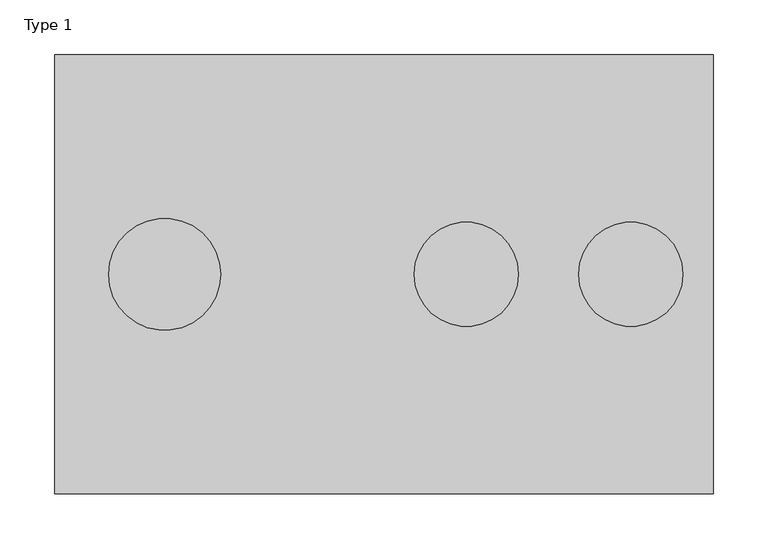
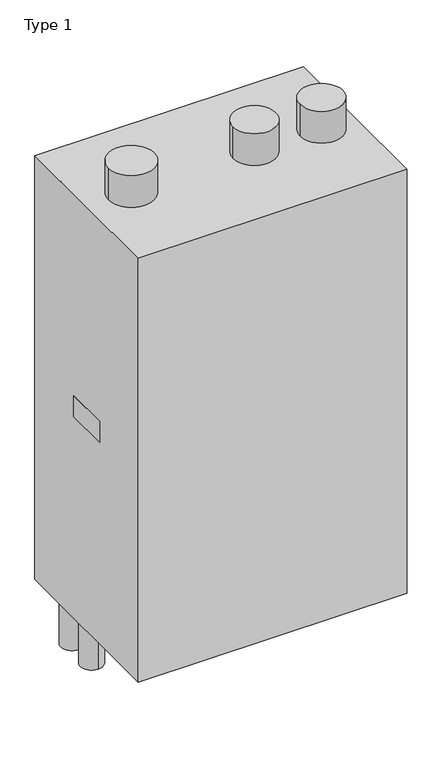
"""IFC4 building model written with IfcOpenShell, lengths in millimetres: unitary equipment geometry, DERS_431_HLS_UN_MC000066_Gasheating_UOB : Type 1."""

from ifc_helpers import new_model, si_unit, point, frame, frame_2d, origin, origin_with_axes, place, context, project, spatial, polyline, circle_curve, trimmed, segment, composite_curve, outline, extrude, source, transform, mapped, element, save
from ifc_brep_helpers import plane_surface, cylinder_surface, revolved_surface, advanced_brep


def type_1_50a8d933(model_context):
    return source(origin(), model_context, "Body", "SolidModel", [
        extrude(outline(composite_curve([segment(trimmed(circle_curve(frame_2d((225.0, -200.0)), 47.5), [point((177.5, -200.0))], [point((272.5, -200.0))], False, "CARTESIAN"), True, "CONTINUOUS"), segment(trimmed(circle_curve(frame_2d((225.0, -200.0)), 47.5), [point((272.5, -200.0))], [point((177.5, -200.0))], False, "CARTESIAN"), True, "CONTINUOUS")], self_intersect=False)), origin_with_axes(), (0.0, 0.0, 1.0), 75.0),
        extrude(outline(polyline([(-297.0, -150.0), (-297.0, -250.0), (-300.0, -250.0), (-300.0, -150.0), (-297.0, -150.0)])), frame((0.0, 0.0, -525.0), z_axis=(0.0, 0.0, 1.0), x_axis=(1.0, 0.0, 0.0)), (0.0, 0.0, 1.0), 50.0),
        advanced_brep(
        [(-260.0, -49.1820663, -1120.0), (-260.0, -99.1820663, -1120.0), (-260.0, -51.1820663, -1120.0), (-260.0, -97.1820663, -1120.0), (-260.0, -49.1820663, -1000.0), (-260.0, -99.1820663, -1000.0), (-260.0, -51.1820663, -1095.0), (-260.0, -97.1820663, -1095.0)],
        [
            (0, 1, circle_curve(frame((-260.0, -74.1820663, -1120.0), z_axis=(0.0, 0.0, -1.0), x_axis=(0.0, -1.0, 0.0)), 25.0)),
            (1, 0, circle_curve(frame((-260.0, -74.1820663, -1120.0), z_axis=(0.0, 0.0, -1.0), x_axis=(0.0, -1.0, 0.0)), 25.0)),
            (2, 3, circle_curve(frame((-260.0, -74.1820663, -1120.0), z_axis=(0.0, 0.0, 1.0), x_axis=(0.0, -1.0, 0.0)), 23.0)),
            (3, 2, circle_curve(frame((-260.0, -74.1820663, -1120.0), z_axis=(0.0, 0.0, 1.0), x_axis=(0.0, -1.0, 0.0)), 23.0)),
            (4, 5, circle_curve(frame((-260.0, -74.1820663, -1000.0), z_axis=(0.0, 0.0, 1.0), x_axis=(0.0, -1.0, 0.0)), 25.0)),
            (5, 4, circle_curve(frame((-260.0, -74.1820663, -1000.0), z_axis=(0.0, 0.0, 1.0), x_axis=(0.0, -1.0, 0.0)), 25.0)),
            (1, 5),
            (4, 0),
            (6, 7, circle_curve(frame((-260.0, -74.1820663, -1095.0), z_axis=(0.0, 0.0, -1.0), x_axis=(0.0, -1.0, 0.0)), 23.0)),
            (7, 6, circle_curve(frame((-260.0, -74.1820663, -1095.0), z_axis=(0.0, 0.0, -1.0), x_axis=(0.0, -1.0, 0.0)), 23.0)),
            (7, 3),
            (2, 6),
        ],
        [
            plane_surface(frame((-260.0, -99.1820663, -1120.0), z_axis=(0.0, 0.0, -1.0), x_axis=(-1.0, 0.0, 0.0))),
            plane_surface(frame((-260.0, -99.1820663, -1000.0), z_axis=(0.0, 0.0, 1.0), x_axis=(1.0, 0.0, 0.0))),
            cylinder_surface(frame((-260.0, -74.1820663, -1120.0), z_axis=(0.0, 0.0, 1.0), x_axis=(0.0, -1.0, 0.0)), 25.0),
            plane_surface(frame((-260.0, -97.1820663, -1095.0), z_axis=(0.0, 0.0, -1.0), x_axis=(1.0, 0.0, 0.0))),
            revolved_surface(polyline([(-260.0, -97.1820663, -1095.0), (-260.0, -97.1820663, -1120.0)]), (-260.0, -74.1820663, -1120.0), (0.0, 0.0, 1.0)),
        ],
        [
            (0, [[1, 2], [3, 4]]),
            (1, [[5, 6]]),
            (2, [[-2, 7, -5, 8]]),
            (2, [[-1, -8, -6, -7]]),
            (3, [[9, 10]]),
            (4, [[-10, 11, -3, 12]]),
            (4, [[-9, -12, -4, -11]]),
        ],
    ),
        extrude(outline(composite_curve([segment(trimmed(circle_curve(frame_2d((-180.0, -74.1820663)), 25.0), [point((-180.0, -49.1820663))], [point((-180.0, -99.1820663))], False, "CARTESIAN"), True, "CONTINUOUS"), segment(trimmed(circle_curve(frame_2d((-180.0, -74.1820663)), 25.0), [point((-180.0, -99.1820663))], [point((-180.0, -49.1820663))], False, "CARTESIAN"), True, "CONTINUOUS")], self_intersect=False)), frame((0.0, 0.0, -1120.0), z_axis=(0.0, 0.0, 1.0), x_axis=(1.0, 0.0, 0.0)), (0.0, 0.0, 1.0), 120.0),
        advanced_brep(
        [(-260.0, -125.0, -1120.0), (-260.0, -175.0, -1120.0), (-260.0, -127.0, -1120.0), (-260.0, -173.0, -1120.0), (-260.0, -125.0, -1000.0), (-260.0, -175.0, -1000.0), (-260.0, -127.0, -1095.0), (-260.0, -173.0, -1095.0)],
        [
            (0, 1, circle_curve(frame((-260.0, -150.0, -1120.0), z_axis=(0.0, 0.0, -1.0), x_axis=(0.0, -1.0, 0.0)), 25.0)),
            (1, 0, circle_curve(frame((-260.0, -150.0, -1120.0), z_axis=(0.0, 0.0, -1.0), x_axis=(0.0, -1.0, 0.0)), 25.0)),
            (2, 3, circle_curve(frame((-260.0, -150.0, -1120.0), z_axis=(0.0, 0.0, 1.0), x_axis=(0.0, -1.0, 0.0)), 23.0)),
            (3, 2, circle_curve(frame((-260.0, -150.0, -1120.0), z_axis=(0.0, 0.0, 1.0), x_axis=(0.0, -1.0, 0.0)), 23.0)),
            (4, 5, circle_curve(frame((-260.0, -150.0, -1000.0), z_axis=(0.0, 0.0, 1.0), x_axis=(0.0, -1.0, 0.0)), 25.0)),
            (5, 4, circle_curve(frame((-260.0, -150.0, -1000.0), z_axis=(0.0, 0.0, 1.0), x_axis=(0.0, -1.0, 0.0)), 25.0)),
            (1, 5),
            (4, 0),
            (6, 7, circle_curve(frame((-260.0, -150.0, -1095.0), z_axis=(0.0, 0.0, -1.0), x_axis=(0.0, -1.0, 0.0)), 23.0)),
            (7, 6, circle_curve(frame((-260.0, -150.0, -1095.0), z_axis=(0.0, 0.0, -1.0), x_axis=(0.0, -1.0, 0.0)), 23.0)),
            (7, 3),
            (2, 6),
        ],
        [
            plane_surface(frame((-260.0, -175.0, -1120.0), z_axis=(0.0, 0.0, -1.0), x_axis=(-1.0, 0.0, 0.0))),
            plane_surface(frame((-260.0, -175.0, -1000.0), z_axis=(0.0, 0.0, 1.0), x_axis=(1.0, 0.0, 0.0))),
            cylinder_surface(frame((-260.0, -150.0, -1120.0), z_axis=(0.0, 0.0, 1.0), x_axis=(0.0, -1.0, 0.0)), 25.0),
            plane_surface(frame((-260.0, -173.0, -1095.0), z_axis=(0.0, 0.0, -1.0), x_axis=(1.0, 0.0, 0.0))),
            revolved_surface(polyline([(-260.0, -173.0, -1095.0), (-260.0, -173.0, -1120.0)]), (-260.0, -150.0, -1120.0), (0.0, 0.0, 1.0)),
        ],
        [
            (0, [[1, 2], [3, 4]]),
            (1, [[5, 6]]),
            (2, [[-2, 7, -5, 8]]),
            (2, [[-1, -8, -6, -7]]),
            (3, [[9, 10]]),
            (4, [[-10, 11, -3, 12]]),
            (4, [[-9, -12, -4, -11]]),
        ],
    ),
        advanced_brep(
        [(250.0, -125.0, -1120.0), (250.0, -175.0, -1120.0), (250.0, -127.0, -1120.0), (250.0, -173.0, -1120.0), (250.0, -125.0, -1000.0), (250.0, -175.0, -1000.0), (250.0, -127.0, -1110.0), (250.0, -173.0, -1110.0)],
        [
            (0, 1, circle_curve(frame((250.0, -150.0, -1120.0), z_axis=(0.0, 0.0, -1.0), x_axis=(0.0, -1.0, 0.0)), 25.0)),
            (1, 0, circle_curve(frame((250.0, -150.0, -1120.0), z_axis=(0.0, 0.0, -1.0), x_axis=(0.0, -1.0, 0.0)), 25.0)),
            (2, 3, circle_curve(frame((250.0, -150.0, -1120.0), z_axis=(0.0, 0.0, 1.0), x_axis=(0.0, -1.0, 0.0)), 23.0)),
            (3, 2, circle_curve(frame((250.0, -150.0, -1120.0), z_axis=(0.0, 0.0, 1.0), x_axis=(0.0, -1.0, 0.0)), 23.0)),
            (4, 5, circle_curve(frame((250.0, -150.0, -1000.0), z_axis=(0.0, 0.0, 1.0), x_axis=(0.0, -1.0, 0.0)), 25.0)),
            (5, 4, circle_curve(frame((250.0, -150.0, -1000.0), z_axis=(0.0, 0.0, 1.0), x_axis=(0.0, -1.0, 0.0)), 25.0)),
            (1, 5),
            (4, 0),
            (6, 7, circle_curve(frame((250.0, -150.0, -1110.0), z_axis=(0.0, 0.0, -1.0), x_axis=(0.0, -1.0, 0.0)), 23.0)),
            (7, 6, circle_curve(frame((250.0, -150.0, -1110.0), z_axis=(0.0, 0.0, -1.0), x_axis=(0.0, -1.0, 0.0)), 23.0)),
            (7, 3),
            (2, 6),
        ],
        [
            plane_surface(frame((250.0, -175.0, -1120.0), z_axis=(0.0, 0.0, -1.0), x_axis=(-1.0, 0.0, 0.0))),
            plane_surface(frame((250.0, -175.0, -1000.0), z_axis=(0.0, 0.0, 1.0), x_axis=(1.0, 0.0, 0.0))),
            cylinder_surface(frame((250.0, -150.0, -1120.0), z_axis=(0.0, 0.0, 1.0), x_axis=(0.0, -1.0, 0.0)), 25.0),
            plane_surface(frame((250.0, -173.0, -1110.0), z_axis=(0.0, 0.0, -1.0), x_axis=(1.0, 0.0, 0.0))),
            revolved_surface(polyline([(250.0, -173.0, -1110.0), (250.0, -173.0, -1120.0)]), (250.0, -150.0, -1120.0), (0.0, 0.0, 1.0)),
        ],
        [
            (0, [[1, 2], [3, 4]]),
            (1, [[5, 6]]),
            (2, [[-2, 7, -5, 8]]),
            (2, [[-1, -8, -6, -7]]),
            (3, [[9, 10]]),
            (4, [[-10, 11, -3, 12]]),
            (4, [[-9, -12, -4, -11]]),
        ],
    ),
        extrude(outline(composite_curve([segment(trimmed(circle_curve(frame_2d((250.0, -74.1820663)), 25.0), [point((250.0, -49.1820663))], [point((250.0, -99.1820663))], False, "CARTESIAN"), True, "CONTINUOUS"), segment(trimmed(circle_curve(frame_2d((250.0, -74.1820663)), 25.0), [point((250.0, -99.1820663))], [point((250.0, -49.1820663))], False, "CARTESIAN"), True, "CONTINUOUS")], self_intersect=False)), frame((0.0, 0.0, -1120.0), z_axis=(0.0, 0.0, 1.0), x_axis=(1.0, 0.0, 0.0)), (0.0, 0.0, 1.0), 120.0),
        advanced_brep(
        [(145.0, -49.1820663, -1120.0), (145.0, -99.1820663, -1120.0), (145.0, -51.1820663, -1120.0), (145.0, -97.1820663, -1120.0), (145.0, -49.1820663, -1000.0), (145.0, -99.1820663, -1000.0), (145.0, -51.1820663, -1110.0), (145.0, -97.1820663, -1110.0)],
        [
            (0, 1, circle_curve(frame((145.0, -74.1820663, -1120.0), z_axis=(0.0, 0.0, -1.0), x_axis=(0.0, -1.0, 0.0)), 25.0)),
            (1, 0, circle_curve(frame((145.0, -74.1820663, -1120.0), z_axis=(0.0, 0.0, -1.0), x_axis=(0.0, -1.0, 0.0)), 25.0)),
            (2, 3, circle_curve(frame((145.0, -74.1820663, -1120.0), z_axis=(0.0, 0.0, 1.0), x_axis=(0.0, -1.0, 0.0)), 23.0)),
            (3, 2, circle_curve(frame((145.0, -74.1820663, -1120.0), z_axis=(0.0, 0.0, 1.0), x_axis=(0.0, -1.0, 0.0)), 23.0)),
            (4, 5, circle_curve(frame((145.0, -74.1820663, -1000.0), z_axis=(0.0, 0.0, 1.0), x_axis=(0.0, -1.0, 0.0)), 25.0)),
            (5, 4, circle_curve(frame((145.0, -74.1820663, -1000.0), z_axis=(0.0, 0.0, 1.0), x_axis=(0.0, -1.0, 0.0)), 25.0)),
            (1, 5),
            (4, 0),
            (6, 7, circle_curve(frame((145.0, -74.1820663, -1110.0), z_axis=(0.0, 0.0, -1.0), x_axis=(0.0, -1.0, 0.0)), 23.0)),
            (7, 6, circle_curve(frame((145.0, -74.1820663, -1110.0), z_axis=(0.0, 0.0, -1.0), x_axis=(0.0, -1.0, 0.0)), 23.0)),
            (7, 3),
            (2, 6),
        ],
        [
            plane_surface(frame((145.0, -99.1820663, -1120.0), z_axis=(0.0, 0.0, -1.0), x_axis=(-1.0, 0.0, 0.0))),
            plane_surface(frame((145.0, -99.1820663, -1000.0), z_axis=(0.0, 0.0, 1.0), x_axis=(1.0, 0.0, 0.0))),
            cylinder_surface(frame((145.0, -74.1820663, -1120.0), z_axis=(0.0, 0.0, 1.0), x_axis=(0.0, -1.0, 0.0)), 25.0),
            plane_surface(frame((145.0, -97.1820663, -1110.0), z_axis=(0.0, 0.0, -1.0), x_axis=(1.0, 0.0, 0.0))),
            revolved_surface(polyline([(145.0, -97.1820663, -1110.0), (145.0, -97.1820663, -1120.0)]), (145.0, -74.1820663, -1120.0), (0.0, 0.0, 1.0)),
        ],
        [
            (0, [[1, 2], [3, 4]]),
            (1, [[5, 6]]),
            (2, [[-2, 7, -5, 8]]),
            (2, [[-1, -8, -6, -7]]),
            (3, [[9, 10]]),
            (4, [[-10, 11, -3, 12]]),
            (4, [[-9, -12, -4, -11]]),
        ],
    ),
        extrude(outline(composite_curve([segment(trimmed(circle_curve(frame_2d((65.0, -74.1820663)), 25.0), [point((65.0, -49.1820663))], [point((65.0, -99.1820663))], False, "CARTESIAN"), True, "CONTINUOUS"), segment(trimmed(circle_curve(frame_2d((65.0, -74.1820663)), 25.0), [point((65.0, -99.1820663))], [point((65.0, -49.1820663))], False, "CARTESIAN"), True, "CONTINUOUS")], self_intersect=False)), frame((0.0, 0.0, -1120.0), z_axis=(0.0, 0.0, 1.0), x_axis=(1.0, 0.0, 0.0)), (0.0, 0.0, 1.0), 120.0),
        advanced_brep(
        [(-35.0, -49.1820663, -1120.0), (-35.0, -99.1820663, -1120.0), (-35.0, -51.1820663, -1120.0), (-35.0, -97.1820663, -1120.0), (-35.0, -49.1820663, -1000.0), (-35.0, -99.1820663, -1000.0), (-35.0, -51.1820663, -1110.0), (-35.0, -97.1820663, -1110.0)],
        [
            (0, 1, circle_curve(frame((-35.0, -74.1820663, -1120.0), z_axis=(0.0, 0.0, -1.0), x_axis=(0.0, -1.0, 0.0)), 25.0)),
            (1, 0, circle_curve(frame((-35.0, -74.1820663, -1120.0), z_axis=(0.0, 0.0, -1.0), x_axis=(0.0, -1.0, 0.0)), 25.0)),
            (2, 3, circle_curve(frame((-35.0, -74.1820663, -1120.0), z_axis=(0.0, 0.0, 1.0), x_axis=(0.0, -1.0, 0.0)), 23.0)),
            (3, 2, circle_curve(frame((-35.0, -74.1820663, -1120.0), z_axis=(0.0, 0.0, 1.0), x_axis=(0.0, -1.0, 0.0)), 23.0)),
            (4, 5, circle_curve(frame((-35.0, -74.1820663, -1000.0), z_axis=(0.0, 0.0, 1.0), x_axis=(0.0, -1.0, 0.0)), 25.0)),
            (5, 4, circle_curve(frame((-35.0, -74.1820663, -1000.0), z_axis=(0.0, 0.0, 1.0), x_axis=(0.0, -1.0, 0.0)), 25.0)),
            (1, 5),
            (4, 0),
            (6, 7, circle_curve(frame((-35.0, -74.1820663, -1110.0), z_axis=(0.0, 0.0, -1.0), x_axis=(0.0, -1.0, 0.0)), 23.0)),
            (7, 6, circle_curve(frame((-35.0, -74.1820663, -1110.0), z_axis=(0.0, 0.0, -1.0), x_axis=(0.0, -1.0, 0.0)), 23.0)),
            (7, 3),
            (2, 6),
        ],
        [
            plane_surface(frame((-35.0, -99.1820663, -1120.0), z_axis=(0.0, 0.0, -1.0), x_axis=(-1.0, 0.0, 0.0))),
            plane_surface(frame((-35.0, -99.1820663, -1000.0), z_axis=(0.0, 0.0, 1.0), x_axis=(1.0, 0.0, 0.0))),
            cylinder_surface(frame((-35.0, -74.1820663, -1120.0), z_axis=(0.0, 0.0, 1.0), x_axis=(0.0, -1.0, 0.0)), 25.0),
            plane_surface(frame((-35.0, -97.1820663, -1110.0), z_axis=(0.0, 0.0, -1.0), x_axis=(1.0, 0.0, 0.0))),
            revolved_surface(polyline([(-35.0, -97.1820663, -1110.0), (-35.0, -97.1820663, -1120.0)]), (-35.0, -74.1820663, -1120.0), (0.0, 0.0, 1.0)),
        ],
        [
            (0, [[1, 2], [3, 4]]),
            (1, [[5, 6]]),
            (2, [[-2, 7, -5, 8]]),
            (2, [[-1, -8, -6, -7]]),
            (3, [[9, 10]]),
            (4, [[-10, 11, -3, 12]]),
            (4, [[-9, -12, -4, -11]]),
        ],
    ),
        extrude(outline(composite_curve([segment(trimmed(circle_curve(frame_2d((-105.0, -74.1820663)), 25.0), [point((-105.0, -49.1820663))], [point((-105.0, -99.1820663))], False, "CARTESIAN"), True, "CONTINUOUS"), segment(trimmed(circle_curve(frame_2d((-105.0, -74.1820663)), 25.0), [point((-105.0, -99.1820663))], [point((-105.0, -49.1820663))], False, "CARTESIAN"), True, "CONTINUOUS")], self_intersect=False)), frame((0.0, 0.0, -1120.0), z_axis=(0.0, 0.0, 1.0), x_axis=(1.0, 0.0, 0.0)), (0.0, 0.0, 1.0), 120.0),
        extrude(outline(composite_curve([segment(trimmed(circle_curve(frame_2d((75.0, -200.0)), 47.5), [point((27.5, -200.0))], [point((122.5, -200.0))], False, "CARTESIAN"), True, "CONTINUOUS"), segment(trimmed(circle_curve(frame_2d((75.0, -200.0)), 47.5), [point((122.5, -200.0))], [point((27.5, -200.0))], False, "CARTESIAN"), True, "CONTINUOUS")], self_intersect=False)), origin_with_axes(), (0.0, 0.0, 1.0), 75.0),
        extrude(outline(composite_curve([segment(trimmed(circle_curve(frame_2d((-200.0, -200.0)), 51.0), [point((-251.0, -200.0))], [point((-149.0, -200.0))], False, "CARTESIAN"), True, "CONTINUOUS"), segment(trimmed(circle_curve(frame_2d((-200.0, -200.0)), 51.0), [point((-149.0, -200.0))], [point((-251.0, -200.0))], False, "CARTESIAN"), True, "CONTINUOUS")], self_intersect=False)), origin_with_axes(), (0.0, 0.0, 1.0), 75.0),
        extrude(outline(polyline([(300.0, 0.0), (300.0, -400.0), (-300.0, -400.0), (-300.0, 0.0), (300.0, 0.0)])), frame((0.0, 0.0, -1000.0), z_axis=(0.0, 0.0, 1.0), x_axis=(1.0, 0.0, 0.0)), (0.0, 0.0, 1.0), 1000.0),
    ])


if __name__ == "__main__":
    model = new_model("IFC4")
    model_context = context("Model", 3, world=origin())
    ifc_project = project(units=[si_unit("LENGTHUNIT", "METRE", prefix="MILLI")], contexts=[model_context])
    site = spatial("IfcSite", under=ifc_project)
    building = spatial("IfcBuilding", under=site)
    placement = place(None, origin())
    type_1_shape = type_1_50a8d933(model_context)
    element("IfcUnitaryEquipment", 1, ObjectType="DERS_431_HLS_UN_MC000066_Gasheating_UOB : Type 1", at=placement, inside=building, context=model_context, shape_type="MappedRepresentation", body=[
        mapped(type_1_shape, transform((0.0, 0.0, 0.0), x_axis=(1.0, 0.0, 0.0), y_axis=(0.0, 1.0, 0.0), z_axis=(0.0, 0.0, 1.0))),
    ])
    save(model, "model.ifc")
